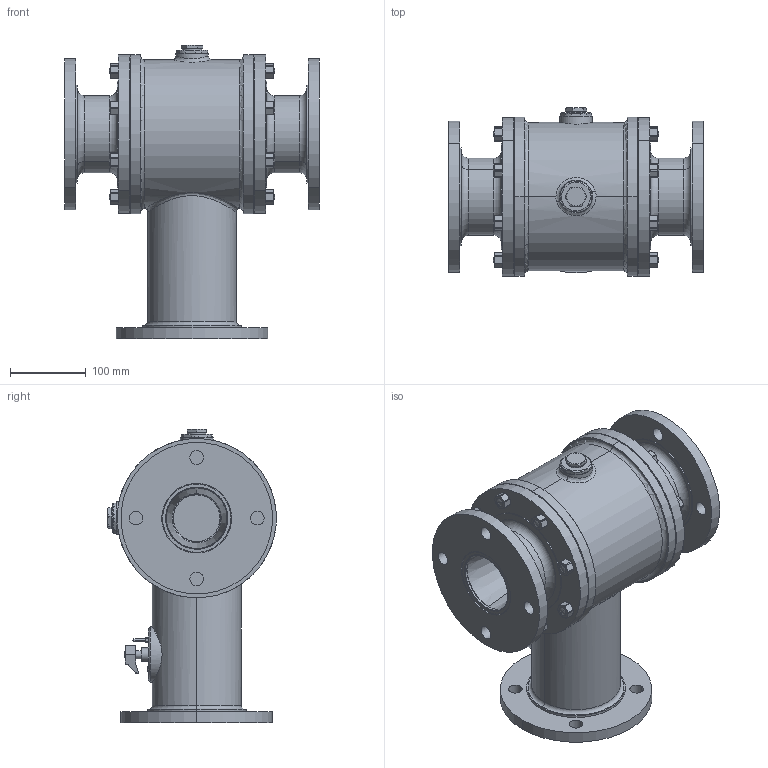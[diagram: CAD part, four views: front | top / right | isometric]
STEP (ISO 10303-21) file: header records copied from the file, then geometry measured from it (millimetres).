
FILE_DESCRIPTION (( 'STEP AP214' ), '1' );
FILE_NAME ('22T70080.STEP', '2018-11-09T10:36:36', ( '' ), ( '' ), 'SwSTEP 2.0', 'SolidWorks 2017', '' );
FILE_SCHEMA (( 'AUTOMOTIVE_DESIGN' ));
Length unit declared in the file: millimetre
Products named in the file (41): 22100729; 22100330; 22TB109328_d‚form‚; 22108632; 22100851U; 22100745_22100745; 22100342_22100745; 22100728; 22100810; 22100864; 22100770; 22100717; 22100347; 22100848; 22100813U; 22100862; 22100827; 22100021; 22109348; 22100709; 22100870; 22100720; 22109308; 22100771; 22019780_22109325U; 22100738; 22100714; 22100756; 22100846; 22100890; 22100869; 22100768; 22100715; 22101180; 22100719; 22100460U; 22T70080; 22100755; 22100811U; 22100847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
Assembly tree (104 placements, depth 4):
  22T70080
    22109308
      22100811U
      22100715  x2
    22TB109328_d‚form‚
      22100851U
      22100756  x4
      22100745_22100745  x2
      22100755  x4
      22019780_22109325U  x2
        22100890
        22100021
      22101180
      22100330  x14
      22100342_22100745  x4
      22100768
      22100771
      22100870
      22108632  x2
      22100347  x2
      22100770
      22100719
    22100846
    22100810  x2
    22100813U  x2
    22109348  x2
      22100847
      22100848
    22100709
    22100827
    22100728
    22100862  x16
    22100869
    22100460U
    22100864  x16
    22100720
    22100330
    22100738
    22100717  x2
    22100714  x2
    22100729
    22016164  x2
Bounding box: 336 x 222.5 x 387.5 mm (x, y, z)
Volume: 4959059.1 mm3; surface area: 1062537.6 mm2
Topology: 102 solids, 102 shells, 2459 faces, 6052 edges, 3861 vertices
Faces by surface type: plane 935, cylinder 766, cone 436, bspline 144, torus 108, sphere 70
Entity records: 51705 total; most frequent: CARTESIAN_POINT 17475, DIRECTION 6341, ORIENTED_EDGE 6336, EDGE_CURVE 3168, AXIS2_PLACEMENT_3D 2306, VERTEX_POINT 2054, VECTOR 1729, LINE 1729
